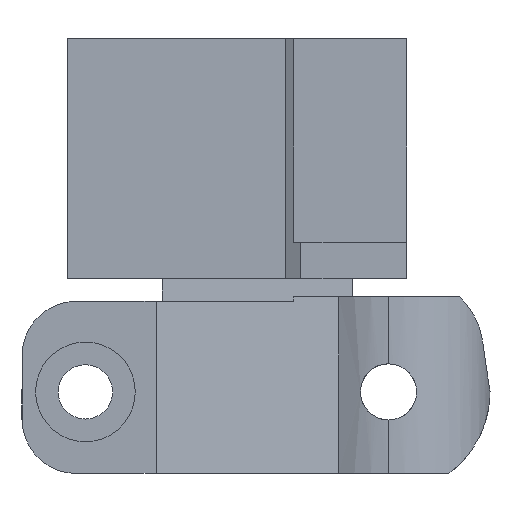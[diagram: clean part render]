
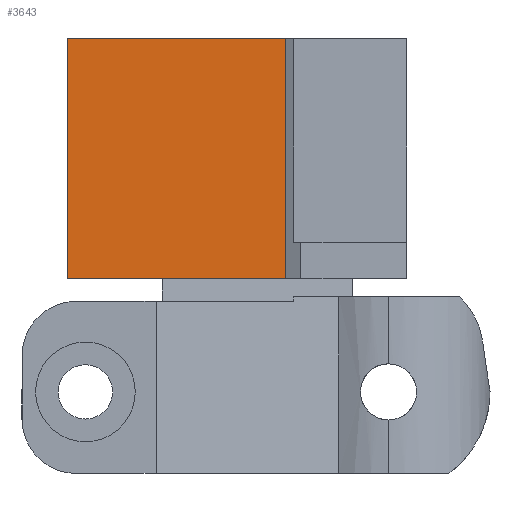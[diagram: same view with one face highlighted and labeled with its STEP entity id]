
A CAD part, left-side view. The second image highlights one B-rep face of the part: STEP entity #3643.
In plain terms, the highlighted planar face has unit normal (-1, 0, 0).
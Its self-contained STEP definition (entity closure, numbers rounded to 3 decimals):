
#1 = PLANE ( 'NONE',  #4609 ) ;
#55 = CARTESIAN_POINT ( 'NONE',  ( -83., 41.5, 38.5 ) ) ;
#114 = ORIENTED_EDGE ( 'NONE', *, *, #2738, .T. ) ;
#396 = DIRECTION ( 'NONE',  ( 0., 0., 1. ) ) ;
#698 = VERTEX_POINT ( 'NONE', #1187 ) ;
#817 = EDGE_CURVE ( 'NONE', #3084, #2322, #3430, .T. ) ;
#907 = EDGE_LOOP ( 'NONE', ( #3185, #1453, #114, #2935 ) ) ;
#945 = VERTEX_POINT ( 'NONE', #4443 ) ;
#1155 = VECTOR ( 'NONE', #2756, 1000. ) ;
#1187 = CARTESIAN_POINT ( 'NONE',  ( -83., 17.427, 38.5 ) ) ;
#1266 = LINE ( 'NONE', #55, #4249 ) ;
#1285 = DIRECTION ( 'NONE',  ( 0., 0., -1. ) ) ;
#1335 = FACE_OUTER_BOUND ( 'NONE', #907, .T. ) ;
#1446 = EDGE_CURVE ( 'NONE', #945, #698, #5000, .T. ) ;
#1453 = ORIENTED_EDGE ( 'NONE', *, *, #817, .T. ) ;
#1659 = VECTOR ( 'NONE', #2352, 1000. ) ;
#1772 = CARTESIAN_POINT ( 'NONE',  ( -83., 20.675, 38.5 ) ) ;
#2028 = CARTESIAN_POINT ( 'NONE',  ( -83., 17.427, 65. ) ) ;
#2322 = VERTEX_POINT ( 'NONE', #2777 ) ;
#2352 = DIRECTION ( 'NONE',  ( 0., 1., 0. ) ) ;
#2696 = CARTESIAN_POINT ( 'NONE',  ( -83., 17.427, 38.5 ) ) ;
#2738 = EDGE_CURVE ( 'NONE', #2322, #945, #1266, .T. ) ;
#2746 = EDGE_CURVE ( 'NONE', #3084, #698, #4983, .T. ) ;
#2756 = DIRECTION ( 'NONE',  ( 0., 0., -1. ) ) ;
#2777 = CARTESIAN_POINT ( 'NONE',  ( -83., 41.5, 65. ) ) ;
#2935 = ORIENTED_EDGE ( 'NONE', *, *, #1446, .T. ) ;
#3084 = VERTEX_POINT ( 'NONE', #4945 ) ;
#3136 = CARTESIAN_POINT ( 'NONE',  ( -83., 17.427, 38.5 ) ) ;
#3185 = ORIENTED_EDGE ( 'NONE', *, *, #2746, .F. ) ;
#3425 = DIRECTION ( 'NONE',  ( -1., 0., 0. ) ) ;
#3430 = LINE ( 'NONE', #2028, #1659 ) ;
#3643 = ADVANCED_FACE ( 'NONE', ( #1335 ), #1, .T. ) ;
#4249 = VECTOR ( 'NONE', #1285, 1000. ) ;
#4265 = VECTOR ( 'NONE', #4949, 1000. ) ;
#4443 = CARTESIAN_POINT ( 'NONE',  ( -83., 41.5, 38.5 ) ) ;
#4609 = AXIS2_PLACEMENT_3D ( 'NONE', #2696, #3425, #396 ) ;
#4945 = CARTESIAN_POINT ( 'NONE',  ( -83., 17.427, 65. ) ) ;
#4949 = DIRECTION ( 'NONE',  ( 0., -1., 0. ) ) ;
#4983 = LINE ( 'NONE', #3136, #1155 ) ;
#5000 = LINE ( 'NONE', #1772, #4265 ) ;
